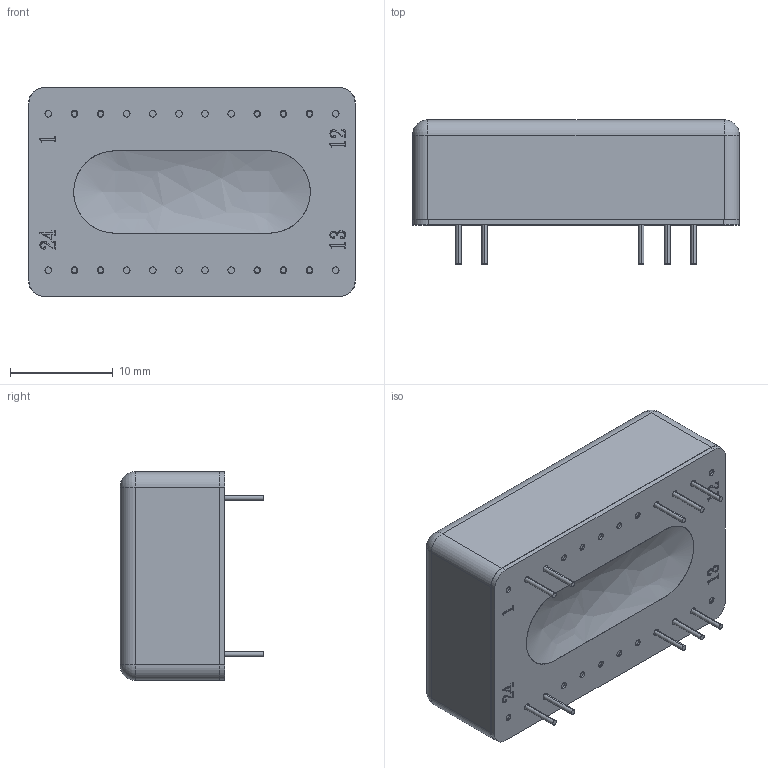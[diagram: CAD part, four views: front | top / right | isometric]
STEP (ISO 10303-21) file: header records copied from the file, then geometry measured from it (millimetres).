
FILE_DESCRIPTION (( 'STEP AP214' ), '1' );
FILE_NAME ('EC5A.STEP', '2018-01-03T02:39:41', ( 'cincon' ), ( '' ), 'SwSTEP 2.0', 'SolidWorks 2008', '' );
FILE_SCHEMA (( 'AUTOMOTIVE_DESIGN' ));
Length unit declared in the file: millimetre
Products named in the file (4): EC5A; CASE A示意圖G5100001000 100,08,12; EC3AE05M BASE 示意圖; EC3AE05M內部灌膠示意圖 100,08,12
Assembly tree (3 placements, depth 2):
  EC5A
    EC3AE05M BASE 示意圖
    EC3AE05M內部灌膠示意圖 100,08,12
    CASE A示意圖G5100001000 100,08,12
Bounding box: 31.8 x 14 x 20.3 mm (x, y, z)
Volume: 6449.5 mm3; surface area: 6408.4 mm2
Topology: 3 solids, 3 shells, 450 faces, 1131 edges, 720 vertices
Faces by surface type: cylinder 152, plane 137, bspline 101, cone 48, sphere 12
Entity records: 16965 total; most frequent: CARTESIAN_POINT 6107, ORIENTED_EDGE 2238, DIRECTION 1969, EDGE_CURVE 1119, VERTEX_POINT 720, AXIS2_PLACEMENT_3D 709, VECTOR 551, LINE 551
